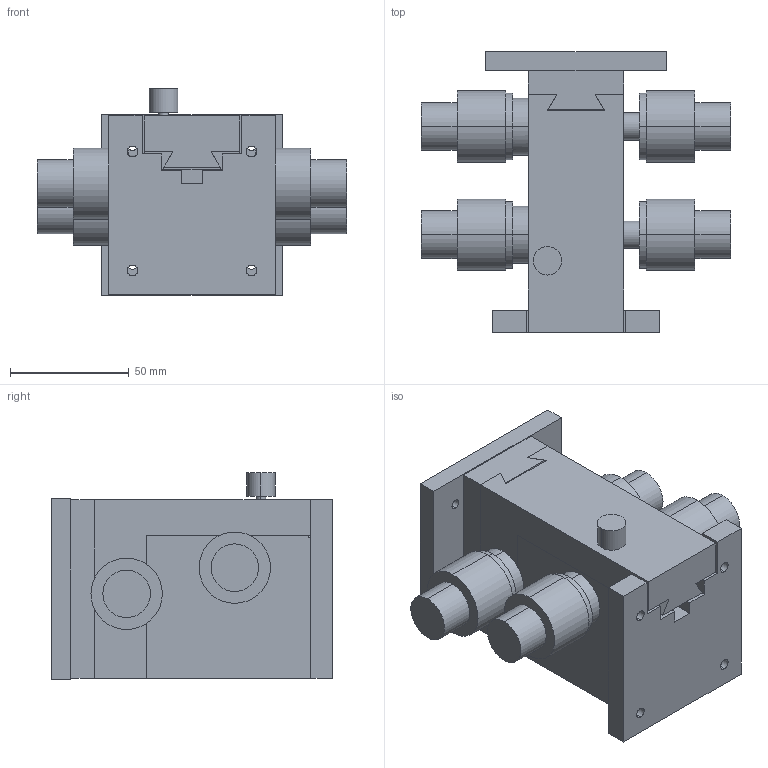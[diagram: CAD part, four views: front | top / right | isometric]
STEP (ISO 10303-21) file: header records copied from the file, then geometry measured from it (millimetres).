
FILE_DESCRIPTION (( 'STEP AP203' ), '1' );
FILE_NAME ('LM-212-2.STEP', '2008-04-02T01:12:13', ( '' ), ( '' ), 'SwSTEP 2.0', 'SolidWorks 2007', '' );
FILE_SCHEMA (( 'CONFIG_CONTROL_DESIGN' ));
Length unit declared in the file: millimetre
Products named in the file (4): LM-212-2; LM-212-2-3_蹬怮椔; LM-212-2-2_蹬怮椔; LM-212-2-1_蹬怮椔
Assembly tree (3 placements, depth 2):
  LM-212-2
    LM-212-2-2_蹬怮椔
    LM-212-2-3_蹬怮椔
    LM-212-2-1_蹬怮椔
Bounding box: 130 x 118 x 87 mm (x, y, z)
Volume: 470193.8 mm3; surface area: 99081.9 mm2
Topology: 3 solids, 5 shells, 201 faces, 458 edges, 304 vertices
Faces by surface type: plane 101, cylinder 98, cone 2
Entity records: 6170 total; most frequent: DIRECTION 1072, CARTESIAN_POINT 969, ORIENTED_EDGE 916, EDGE_CURVE 458, AXIS2_PLACEMENT_3D 407, VERTEX_POINT 304, EDGE_LOOP 258, LINE 258
